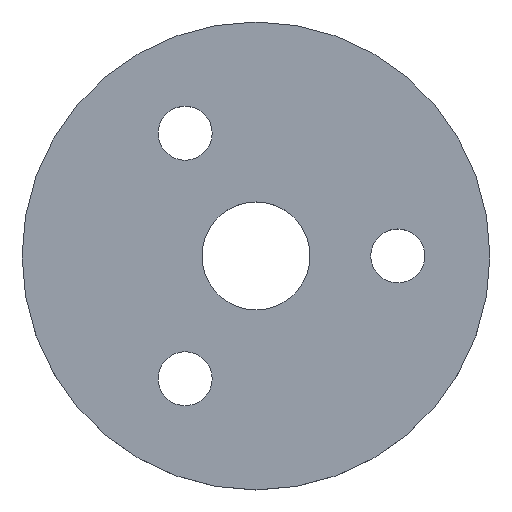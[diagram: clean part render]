
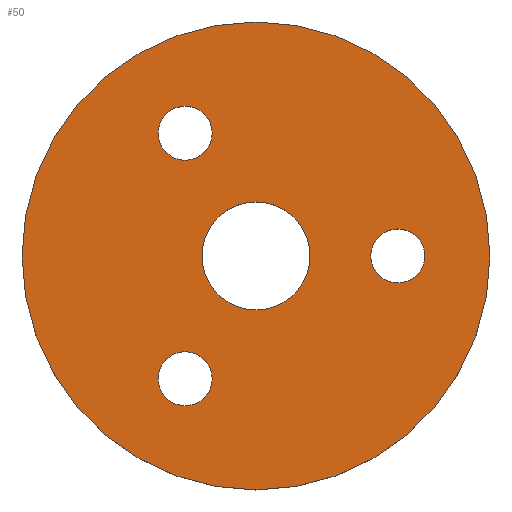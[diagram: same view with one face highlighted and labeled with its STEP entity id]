
A CAD part, top view. The second image highlights one B-rep face of the part: STEP entity #50.
In plain terms, the highlighted planar face has unit normal (0, 0, 1).
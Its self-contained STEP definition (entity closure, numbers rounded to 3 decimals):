
#21 = EDGE_CURVE('',#22,#22,#24,.T.);
#22 = VERTEX_POINT('',#23);
#23 = CARTESIAN_POINT('',(52.,0.,175.));
#24 = CIRCLE('',#25,52.);
#25 = AXIS2_PLACEMENT_3D('',#26,#27,#28);
#26 = CARTESIAN_POINT('',(0.,0.,175.));
#27 = DIRECTION('',(0.,0.,1.));
#28 = DIRECTION('',(1.,0.,-0.));
#50 = ADVANCED_FACE('',(#51,#54,#65,#76,#87),#98,.T.);
#51 = FACE_BOUND('',#52,.T.);
#52 = EDGE_LOOP('',(#53));
#53 = ORIENTED_EDGE('',*,*,#21,.T.);
#54 = FACE_BOUND('',#55,.T.);
#55 = EDGE_LOOP('',(#56));
#56 = ORIENTED_EDGE('',*,*,#57,.F.);
#57 = EDGE_CURVE('',#58,#58,#60,.T.);
#58 = VERTEX_POINT('',#59);
#59 = CARTESIAN_POINT('',(-9.75,-27.28,175.));
#60 = CIRCLE('',#61,6.);
#61 = AXIS2_PLACEMENT_3D('',#62,#63,#64);
#62 = CARTESIAN_POINT('',(-15.75,-27.28,175.));
#63 = DIRECTION('',(0.,0.,1.));
#64 = DIRECTION('',(1.,0.,-0.));
#65 = FACE_BOUND('',#66,.T.);
#66 = EDGE_LOOP('',(#67));
#67 = ORIENTED_EDGE('',*,*,#68,.F.);
#68 = EDGE_CURVE('',#69,#69,#71,.T.);
#69 = VERTEX_POINT('',#70);
#70 = CARTESIAN_POINT('',(12.,0.,175.));
#71 = CIRCLE('',#72,12.);
#72 = AXIS2_PLACEMENT_3D('',#73,#74,#75);
#73 = CARTESIAN_POINT('',(0.,0.,175.));
#74 = DIRECTION('',(0.,0.,1.));
#75 = DIRECTION('',(1.,0.,-0.));
#76 = FACE_BOUND('',#77,.T.);
#77 = EDGE_LOOP('',(#78));
#78 = ORIENTED_EDGE('',*,*,#79,.F.);
#79 = EDGE_CURVE('',#80,#80,#82,.T.);
#80 = VERTEX_POINT('',#81);
#81 = CARTESIAN_POINT('',(37.5,0.,175.));
#82 = CIRCLE('',#83,6.);
#83 = AXIS2_PLACEMENT_3D('',#84,#85,#86);
#84 = CARTESIAN_POINT('',(31.5,0.,175.));
#85 = DIRECTION('',(0.,0.,1.));
#86 = DIRECTION('',(1.,0.,-0.));
#87 = FACE_BOUND('',#88,.T.);
#88 = EDGE_LOOP('',(#89));
#89 = ORIENTED_EDGE('',*,*,#90,.F.);
#90 = EDGE_CURVE('',#91,#91,#93,.T.);
#91 = VERTEX_POINT('',#92);
#92 = CARTESIAN_POINT('',(-9.75,27.28,175.));
#93 = CIRCLE('',#94,6.);
#94 = AXIS2_PLACEMENT_3D('',#95,#96,#97);
#95 = CARTESIAN_POINT('',(-15.75,27.28,175.));
#96 = DIRECTION('',(0.,0.,1.));
#97 = DIRECTION('',(1.,0.,-0.));
#98 = PLANE('',#99);
#99 = AXIS2_PLACEMENT_3D('',#100,#101,#102);
#100 = CARTESIAN_POINT('',(0.,0.,175.));
#101 = DIRECTION('',(0.,0.,1.));
#102 = DIRECTION('',(1.,0.,-0.));
